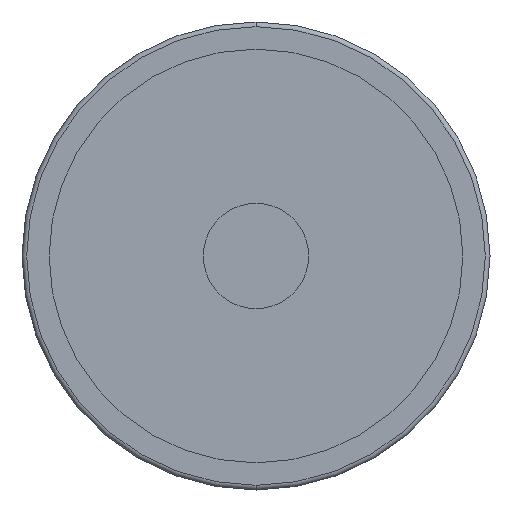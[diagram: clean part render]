
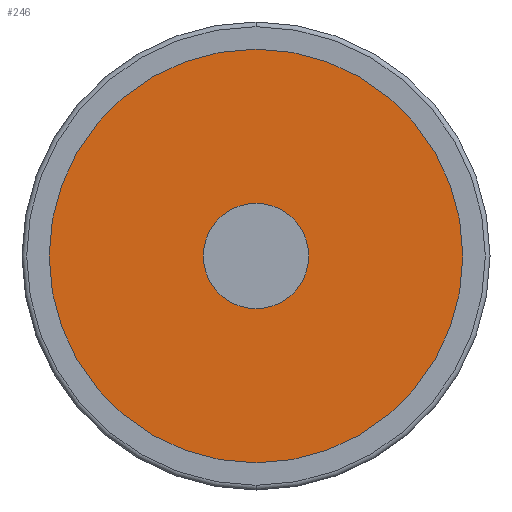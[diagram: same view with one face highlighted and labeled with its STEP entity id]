
A CAD part, front view. The second image highlights one B-rep face of the part: STEP entity #246.
In plain terms, the highlighted planar face has unit normal (0, -1, 0).
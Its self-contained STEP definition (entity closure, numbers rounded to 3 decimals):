
#24 = ORIENTED_EDGE ( 'NONE', *, *, #192, .F. ) ;
#33 = CIRCLE ( 'NONE', #1003, 44.3 ) ;
#37 = CARTESIAN_POINT ( 'NONE',  ( 10.25, 4.5, 0. ) ) ;
#49 = DIRECTION ( 'NONE',  ( 1., 0., 0. ) ) ;
#62 = VERTEX_POINT ( 'NONE', #37 ) ;
#192 = EDGE_CURVE ( 'NONE', #1442, #62, #193, .T. ) ;
#193 = CIRCLE ( 'NONE', #1811, 10.25 ) ;
#246 = ADVANCED_FACE ( 'NONE', ( #2244, #1669 ), #1465, .T. ) ;
#259 = EDGE_CURVE ( 'NONE', #2020, #2120, #1082, .T. ) ;
#276 = AXIS2_PLACEMENT_3D ( 'NONE', #835, #303, #1874 ) ;
#303 = DIRECTION ( 'NONE',  ( 0., -1., 0. ) ) ;
#459 = CARTESIAN_POINT ( 'NONE',  ( 0., 4.5, 0. ) ) ;
#510 = CARTESIAN_POINT ( 'NONE',  ( -44.3, 4.5, 0. ) ) ;
#530 = CARTESIAN_POINT ( 'NONE',  ( -10.25, 4.5, 0. ) ) ;
#632 = DIRECTION ( 'NONE',  ( 0., -1., 0. ) ) ;
#668 = DIRECTION ( 'NONE',  ( 0., -1., 0. ) ) ;
#689 = AXIS2_PLACEMENT_3D ( 'NONE', #2334, #1373, #49 ) ;
#835 = CARTESIAN_POINT ( 'NONE',  ( 0., 4.5, 0. ) ) ;
#898 = EDGE_CURVE ( 'NONE', #2120, #2020, #33, .T. ) ;
#934 = ORIENTED_EDGE ( 'NONE', *, *, #259, .T. ) ;
#989 = ORIENTED_EDGE ( 'NONE', *, *, #898, .T. ) ;
#1003 = AXIS2_PLACEMENT_3D ( 'NONE', #459, #668, #2429 ) ;
#1070 = CARTESIAN_POINT ( 'NONE',  ( 0., 4.5, 0. ) ) ;
#1082 = CIRCLE ( 'NONE', #276, 44.3 ) ;
#1158 = EDGE_CURVE ( 'NONE', #62, #1442, #2457, .T. ) ;
#1238 = DIRECTION ( 'NONE',  ( 0., -1., 0. ) ) ;
#1272 = EDGE_LOOP ( 'NONE', ( #989, #934 ) ) ;
#1373 = DIRECTION ( 'NONE',  ( 0., -1., 0. ) ) ;
#1442 = VERTEX_POINT ( 'NONE', #530 ) ;
#1465 = PLANE ( 'NONE',  #2051 ) ;
#1538 = CARTESIAN_POINT ( 'NONE',  ( -44.3, 4.5, 0. ) ) ;
#1669 = FACE_BOUND ( 'NONE', #1946, .T. ) ;
#1797 = DIRECTION ( 'NONE',  ( 1., 0., 0. ) ) ;
#1811 = AXIS2_PLACEMENT_3D ( 'NONE', #1070, #632, #2067 ) ;
#1843 = CARTESIAN_POINT ( 'NONE',  ( 44.3, 4.5, 0. ) ) ;
#1874 = DIRECTION ( 'NONE',  ( 1., 0., 0. ) ) ;
#1946 = EDGE_LOOP ( 'NONE', ( #2493, #24 ) ) ;
#2020 = VERTEX_POINT ( 'NONE', #1843 ) ;
#2051 = AXIS2_PLACEMENT_3D ( 'NONE', #510, #1238, #1797 ) ;
#2067 = DIRECTION ( 'NONE',  ( 1., 0., 0. ) ) ;
#2120 = VERTEX_POINT ( 'NONE', #1538 ) ;
#2244 = FACE_OUTER_BOUND ( 'NONE', #1272, .T. ) ;
#2334 = CARTESIAN_POINT ( 'NONE',  ( 0., 4.5, 0. ) ) ;
#2429 = DIRECTION ( 'NONE',  ( 1., 0., 0. ) ) ;
#2457 = CIRCLE ( 'NONE', #689, 10.25 ) ;
#2493 = ORIENTED_EDGE ( 'NONE', *, *, #1158, .F. ) ;
